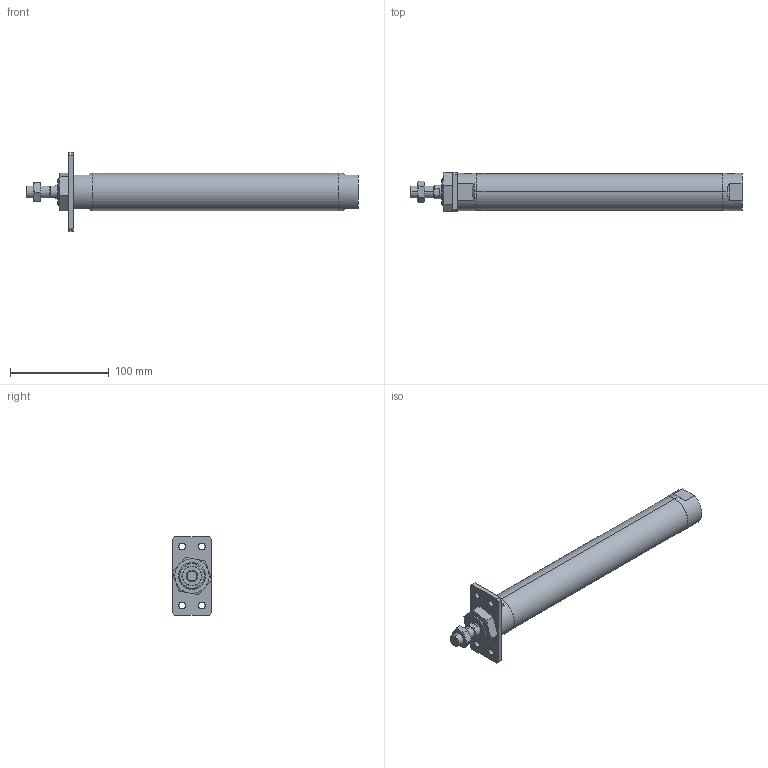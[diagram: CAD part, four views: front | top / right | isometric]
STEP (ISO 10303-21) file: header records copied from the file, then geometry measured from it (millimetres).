
FILE_DESCRIPTION (( 'STEP AP203' ), '1' );
FILE_NAME ('JGND2-32-200-A.STEP', '2016-08-04T02:55:55', ( '' ), ( '' ), 'SwSTEP 2.0', 'SolidWorks 2014', '' );
FILE_SCHEMA (( 'CONFIG_CONTROL_DESIGN' ));
Length unit declared in the file: millimetre
Products named in the file (5): J#2-32-200(P); JGND2-32-200-A; J#2-32-A
Assembly tree (4 placements, depth 2):
  JGND2-32-200-A
    J#2-32-200(P)
    (unnamed)
    (unnamed)
    J#2-32-A
Bounding box: 337 x 40 x 80 mm (x, y, z)
Volume: 348967.8 mm3; surface area: 51100 mm2
Topology: 4 solids, 4 shells, 109 faces, 254 edges, 155 vertices
Faces by surface type: plane 42, cylinder 30, torus 24, cone 13
Entity records: 4084 total; most frequent: CARTESIAN_POINT 1128, DIRECTION 511, ORIENTED_EDGE 500, EDGE_CURVE 250, AXIS2_PLACEMENT_3D 208, VERTEX_POINT 155, EDGE_LOOP 129, FACE_OUTER_BOUND 109
